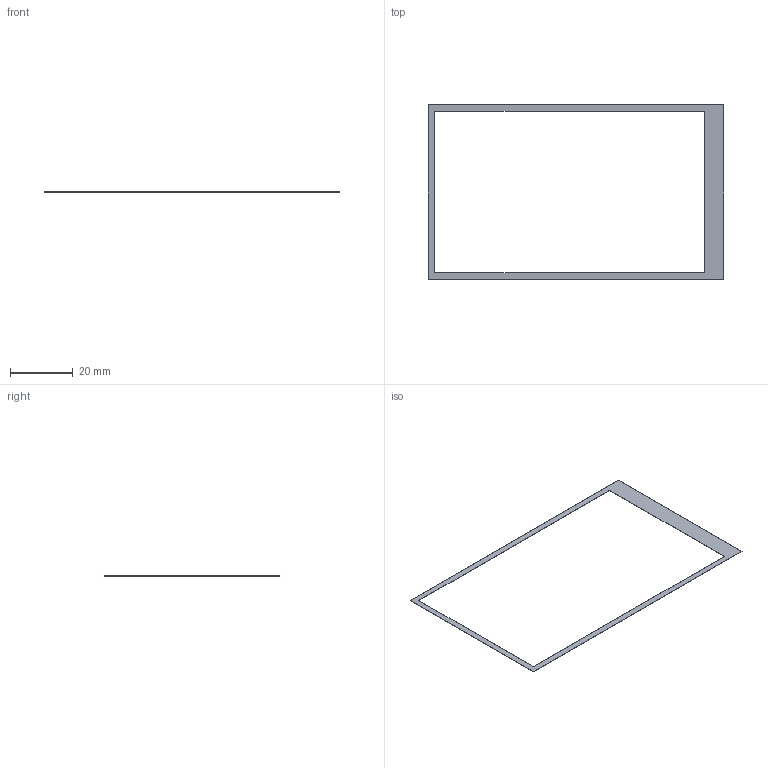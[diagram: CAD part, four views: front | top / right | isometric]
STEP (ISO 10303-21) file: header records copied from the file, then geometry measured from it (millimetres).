
FILE_DESCRIPTION(/* description */ ('STEP AP242 Edition 2','CAx-IF Rec.Pracs.---Representation and Presentation of Product Manufacturing Information (PMI)---4.0---2014-10-13','CAx-IF Rec.Pracs.---3D Tessellated Geometry---0.4---2014-09-14','2;1','CAx-IF Rec.Pracs.---User Defined Attributes---1.5---2016-08-15'),/* implementation_level */ '2;1');
FILE_NAME(/* name */ 'Assembly 1 - Part 2',/* time_stamp */ '2026-07-23T10:03:21Z',/* author */ (''),/* organization */ (''),/* preprocessor_version */ 'ST-DEVELOPER v20',/* originating_system */ 'ONSHAPE BY PTC INC, 1.218',/* authorisation */ ' ');
FILE_SCHEMA (('AP242_MANAGED_MODEL_BASED_3D_ENGINEERING_MIM_LF { 1 0 10303 442 3 1 4 }'));
Length unit declared in the file: metre
Products named in the file (1): Part 2
Bounding box: 94.1 x 55.65 x 0.1 mm (x, y, z)
Volume: 79 mm3; surface area: 1636.7 mm2
Topology: 1 solids, 1 shells, 10 faces, 24 edges, 16 vertices
Faces by surface type: plane 10
Entity records: 314 total; most frequent: CARTESIAN_POINT 51, ORIENTED_EDGE 48, DIRECTION 46, EDGE_CURVE 24, LINE 24, VECTOR 24, VERTEX_POINT 16, EDGE_LOOP 12
